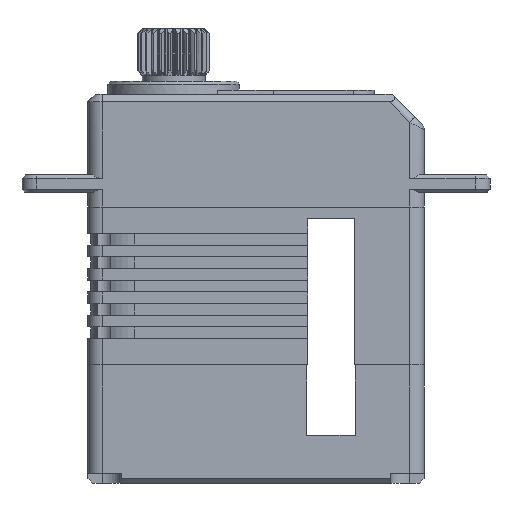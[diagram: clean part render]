
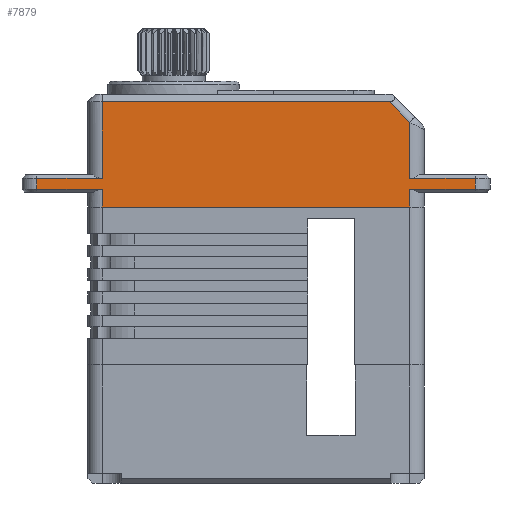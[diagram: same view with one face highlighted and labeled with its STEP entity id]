
A CAD part, front view. The second image highlights one B-rep face of the part: STEP entity #7879.
In plain terms, the highlighted planar face has unit normal (0, -1, 0).
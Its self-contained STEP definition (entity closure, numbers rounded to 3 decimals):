
#84 = CARTESIAN_POINT ( 'NONE',  ( -90.249, 10.251, 12.35 ) ) ;
#190 = LINE ( 'NONE', #20181, #815 ) ;
#234 = ORIENTED_EDGE ( 'NONE', *, *, #13771, .T. ) ;
#572 = VECTOR ( 'NONE', #22792, 1000. ) ;
#630 = EDGE_CURVE ( 'NONE', #10553, #3894, #12367, .T. ) ;
#815 = VECTOR ( 'NONE', #10001, 1000. ) ;
#838 = LINE ( 'NONE', #23524, #24398 ) ;
#1491 = EDGE_CURVE ( 'NONE', #3784, #20592, #13303, .T. ) ;
#1682 = CARTESIAN_POINT ( 'NONE',  ( -90.249, 10.251, 7.1 ) ) ;
#2428 = AXIS2_PLACEMENT_3D ( 'NONE', #3801, #5660, #15567 ) ;
#3076 = EDGE_CURVE ( 'NONE', #11398, #12824, #20510, .T. ) ;
#3347 = CARTESIAN_POINT ( 'NONE',  ( -89.249, 10.251, 6.35 ) ) ;
#3503 = DIRECTION ( 'NONE',  ( 0., 0., -1. ) ) ;
#3739 = DIRECTION ( 'NONE',  ( 1., 0., 0. ) ) ;
#3784 = VERTEX_POINT ( 'NONE', #5476 ) ;
#3801 = CARTESIAN_POINT ( 'NONE',  ( -90.249, 10.251, 5.15 ) ) ;
#3894 = VERTEX_POINT ( 'NONE', #21796 ) ;
#4342 = LINE ( 'NONE', #25551, #25080 ) ;
#4817 = LINE ( 'NONE', #1682, #13600 ) ;
#5394 = ORIENTED_EDGE ( 'NONE', *, *, #17886, .T. ) ;
#5476 = CARTESIAN_POINT ( 'NONE',  ( -68.249, 10.251, 10.943 ) ) ;
#5501 = VECTOR ( 'NONE', #11587, 1000. ) ;
#5660 = DIRECTION ( 'NONE',  ( 0., -1., 0. ) ) ;
#6533 = EDGE_CURVE ( 'NONE', #22363, #17200, #16806, .T. ) ;
#6659 = CARTESIAN_POINT ( 'NONE',  ( -89.249, 10.251, 7.1 ) ) ;
#6780 = VERTEX_POINT ( 'NONE', #6659 ) ;
#6819 = ORIENTED_EDGE ( 'NONE', *, *, #19157, .T. ) ;
#6917 = CARTESIAN_POINT ( 'NONE',  ( -90.249, 10.251, 7.1 ) ) ;
#7042 = EDGE_CURVE ( 'NONE', #6780, #10553, #4817, .T. ) ;
#7175 = ORIENTED_EDGE ( 'NONE', *, *, #7042, .T. ) ;
#7413 = DIRECTION ( 'NONE',  ( 0., 0., -1. ) ) ;
#7507 = CARTESIAN_POINT ( 'NONE',  ( -89.249, 10.251, 5.15 ) ) ;
#7879 = ADVANCED_FACE ( 'NONE', ( #21397 ), #15835, .T. ) ;
#8256 = CARTESIAN_POINT ( 'NONE',  ( -89.249, 10.251, 5.15 ) ) ;
#8292 = DIRECTION ( 'NONE',  ( -1., 0., 0. ) ) ;
#8542 = ORIENTED_EDGE ( 'NONE', *, *, #8709, .T. ) ;
#8709 = EDGE_CURVE ( 'NONE', #24647, #10370, #4342, .T. ) ;
#8752 = CARTESIAN_POINT ( 'NONE',  ( -90.249, 10.251, 6.35 ) ) ;
#8847 = CARTESIAN_POINT ( 'NONE',  ( -68.249, 10.251, 7.1 ) ) ;
#8946 = CARTESIAN_POINT ( 'NONE',  ( -68.249, 10.251, 5.15 ) ) ;
#9108 = DIRECTION ( 'NONE',  ( -1., 0., 0. ) ) ;
#9131 = ORIENTED_EDGE ( 'NONE', *, *, #1491, .T. ) ;
#9380 = ORIENTED_EDGE ( 'NONE', *, *, #24724, .T. ) ;
#10001 = DIRECTION ( 'NONE',  ( 1., 0., 0. ) ) ;
#10370 = VERTEX_POINT ( 'NONE', #14346 ) ;
#10553 = VERTEX_POINT ( 'NONE', #19174 ) ;
#10653 = LINE ( 'NONE', #15591, #19131 ) ;
#10996 = DIRECTION ( 'NONE',  ( -0.707, 0., 0.707 ) ) ;
#11398 = VERTEX_POINT ( 'NONE', #3347 ) ;
#11587 = DIRECTION ( 'NONE',  ( 0., 0., 1. ) ) ;
#11714 = DIRECTION ( 'NONE',  ( 0., 0., -1. ) ) ;
#11942 = EDGE_CURVE ( 'NONE', #17200, #16502, #12064, .T. ) ;
#12064 = LINE ( 'NONE', #6917, #25242 ) ;
#12367 = LINE ( 'NONE', #16863, #22432 ) ;
#12824 = VERTEX_POINT ( 'NONE', #8256 ) ;
#13303 = LINE ( 'NONE', #23279, #22115 ) ;
#13600 = VECTOR ( 'NONE', #17428, 1000. ) ;
#13771 = EDGE_CURVE ( 'NONE', #3894, #11398, #10653, .T. ) ;
#14113 = ORIENTED_EDGE ( 'NONE', *, *, #20202, .T. ) ;
#14229 = VECTOR ( 'NONE', #11714, 1000. ) ;
#14346 = CARTESIAN_POINT ( 'NONE',  ( -68.249, 10.251, 6.35 ) ) ;
#14687 = ORIENTED_EDGE ( 'NONE', *, *, #6533, .T. ) ;
#15567 = DIRECTION ( 'NONE',  ( 0., 0., -1. ) ) ;
#15591 = CARTESIAN_POINT ( 'NONE',  ( -90.249, 10.251, 6.35 ) ) ;
#15702 = ORIENTED_EDGE ( 'NONE', *, *, #630, .T. ) ;
#15835 = PLANE ( 'NONE',  #2428 ) ;
#16502 = VERTEX_POINT ( 'NONE', #8847 ) ;
#16806 = LINE ( 'NONE', #19581, #5501 ) ;
#16863 = CARTESIAN_POINT ( 'NONE',  ( -93.749, 10.251, 5.15 ) ) ;
#17200 = VERTEX_POINT ( 'NONE', #25344 ) ;
#17428 = DIRECTION ( 'NONE',  ( -1., 0., 0. ) ) ;
#17639 = LINE ( 'NONE', #8946, #18915 ) ;
#17816 = ORIENTED_EDGE ( 'NONE', *, *, #20009, .T. ) ;
#17886 = EDGE_CURVE ( 'NONE', #20592, #18579, #23334, .T. ) ;
#18329 = CARTESIAN_POINT ( 'NONE',  ( -68.249, 10.251, 5.15 ) ) ;
#18579 = VERTEX_POINT ( 'NONE', #22635 ) ;
#18691 = DIRECTION ( 'NONE',  ( 0., 0., 1. ) ) ;
#18915 = VECTOR ( 'NONE', #18691, 1000. ) ;
#19131 = VECTOR ( 'NONE', #3739, 1000. ) ;
#19157 = EDGE_CURVE ( 'NONE', #10370, #22363, #23229, .T. ) ;
#19174 = CARTESIAN_POINT ( 'NONE',  ( -93.749, 10.251, 7.1 ) ) ;
#19581 = CARTESIAN_POINT ( 'NONE',  ( -63.749, 10.251, 5.15 ) ) ;
#20009 = EDGE_CURVE ( 'NONE', #18579, #6780, #838, .T. ) ;
#20181 = CARTESIAN_POINT ( 'NONE',  ( -78.749, 10.251, 5.15 ) ) ;
#20202 = EDGE_CURVE ( 'NONE', #12824, #24647, #190, .T. ) ;
#20510 = LINE ( 'NONE', #7507, #14229 ) ;
#20592 = VERTEX_POINT ( 'NONE', #21562 ) ;
#21397 = FACE_OUTER_BOUND ( 'NONE', #25444, .T. ) ;
#21562 = CARTESIAN_POINT ( 'NONE',  ( -69.656, 10.251, 12.35 ) ) ;
#21796 = CARTESIAN_POINT ( 'NONE',  ( -93.749, 10.251, 6.35 ) ) ;
#22115 = VECTOR ( 'NONE', #10996, 1000. ) ;
#22363 = VERTEX_POINT ( 'NONE', #22822 ) ;
#22432 = VECTOR ( 'NONE', #7413, 1000. ) ;
#22635 = CARTESIAN_POINT ( 'NONE',  ( -89.249, 10.251, 12.35 ) ) ;
#22792 = DIRECTION ( 'NONE',  ( 1., 0., 0. ) ) ;
#22822 = CARTESIAN_POINT ( 'NONE',  ( -63.749, 10.251, 6.35 ) ) ;
#23229 = LINE ( 'NONE', #8752, #572 ) ;
#23279 = CARTESIAN_POINT ( 'NONE',  ( -68.249, 10.251, 10.943 ) ) ;
#23307 = ORIENTED_EDGE ( 'NONE', *, *, #11942, .T. ) ;
#23334 = LINE ( 'NONE', #84, #25549 ) ;
#23524 = CARTESIAN_POINT ( 'NONE',  ( -89.249, 10.251, 5.15 ) ) ;
#24398 = VECTOR ( 'NONE', #3503, 1000. ) ;
#24647 = VERTEX_POINT ( 'NONE', #18329 ) ;
#24724 = EDGE_CURVE ( 'NONE', #16502, #3784, #17639, .T. ) ;
#25080 = VECTOR ( 'NONE', #25714, 1000. ) ;
#25242 = VECTOR ( 'NONE', #9108, 1000. ) ;
#25344 = CARTESIAN_POINT ( 'NONE',  ( -63.749, 10.251, 7.1 ) ) ;
#25444 = EDGE_LOOP ( 'NONE', ( #14687, #23307, #9380, #9131, #5394, #17816, #7175, #15702, #234, #25497, #14113, #8542, #6819 ) ) ;
#25497 = ORIENTED_EDGE ( 'NONE', *, *, #3076, .T. ) ;
#25549 = VECTOR ( 'NONE', #8292, 1000. ) ;
#25551 = CARTESIAN_POINT ( 'NONE',  ( -68.249, 10.251, 5.15 ) ) ;
#25714 = DIRECTION ( 'NONE',  ( 0., 0., 1. ) ) ;
